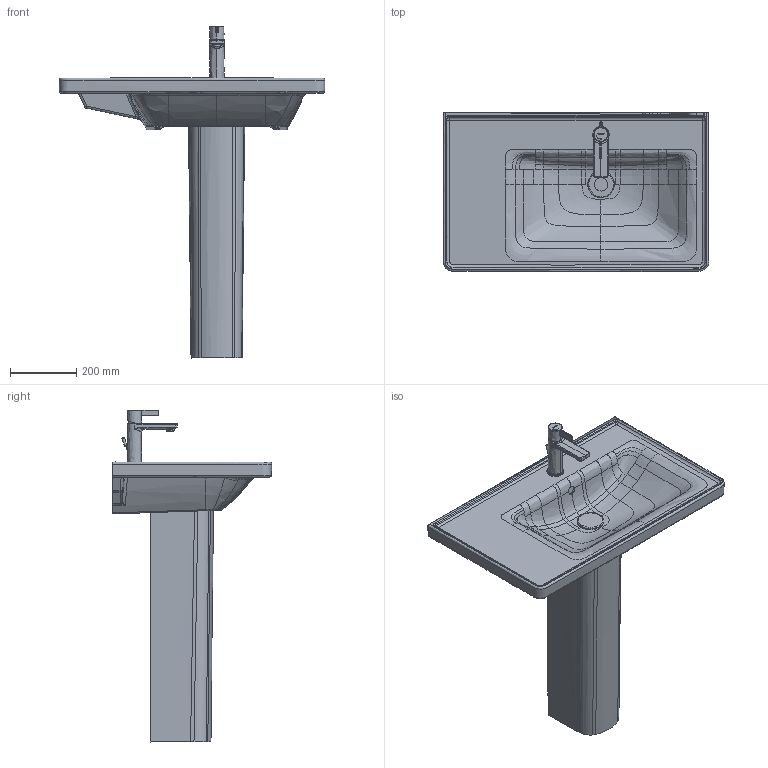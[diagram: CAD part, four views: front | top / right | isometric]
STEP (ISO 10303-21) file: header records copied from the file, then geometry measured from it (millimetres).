
FILE_DESCRIPTION(/* description */ (''),/* implementation_level */ '2;1');
FILE_NAME(/* name */ '237080_085842',/* time_stamp */ '2021-06-21T12:14:59+02:00',/* author */ (''),/* organization */ (''),/* preprocessor_version */ 'ST-DEVELOPER v15',/* originating_system */ '',/* authorisation */ '');
FILE_SCHEMA (('AUTOMOTIVE_DESIGN'));
Length unit declared in the file: millimetre
Products named in the file (1): Document
Bounding box: 800.17 x 480.01 x 999.28 mm (x, y, z)
Volume: 24402210 mm3; surface area: 2012982.8 mm2
Topology: 5 solids, 10 shells, 659 faces, 1604 edges, 975 vertices
Faces by surface type: bspline 506, plane 153
Entity records: 91231 total; most frequent: CARTESIAN_POINT 81257, ORIENTED_EDGE 3174, EDGE_CURVE 1594, B_SPLINE_CURVE_WITH_KNOTS 1308, VERTEX_POINT 975, EDGE_LOOP 699, ADVANCED_FACE 659, FACE_OUTER_BOUND 659
